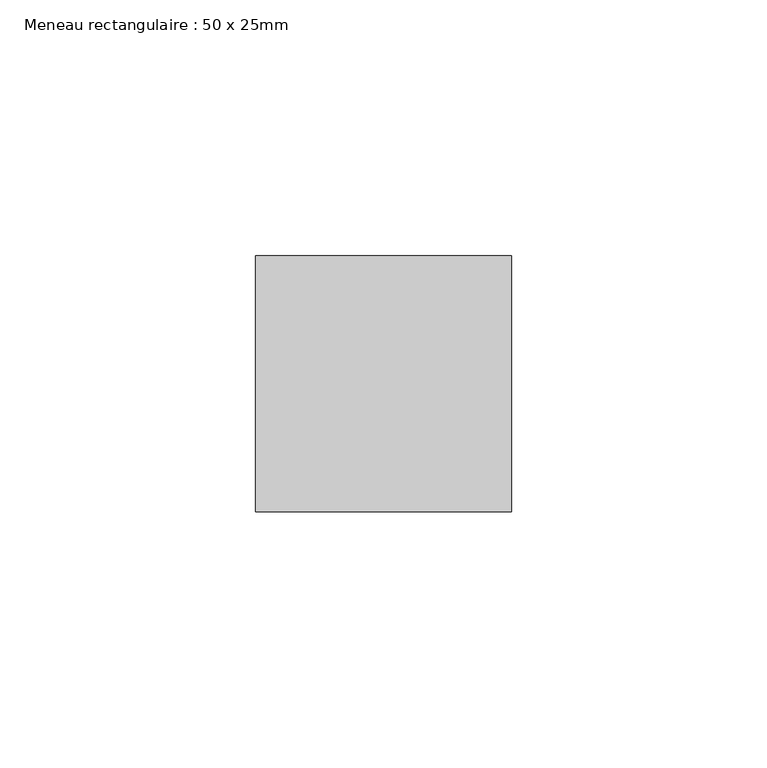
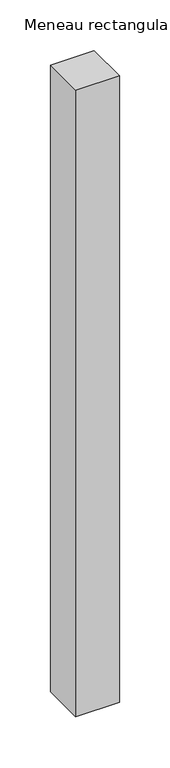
"""IFC4 building model written with IfcOpenShell, lengths in millimetres: member geometry, Meneau rectangulaire : 50 x 25mm."""

from ifc_helpers import new_model, si_unit, frame, origin, place, context, project, spatial, polyline, outline, extrude, source, transform, mapped, element, save


def meneau_rectangulaire_50_x_25mm_b23c0b19(model_context):
    return source(origin(), model_context, "Body", "SweptSolid", [
        extrude(outline(polyline([(25.0, 0.0), (25.0, -50.0), (-25.0, -50.0), (-25.0, 0.0), (25.0, 0.0)])), frame((0.0, 0.0, -758.0861048), z_axis=(0.0, 0.0, 1.0), x_axis=(1.0, 0.0, 0.0)), (0.0, 0.0, 1.0), 758.0861048),
    ])


if __name__ == "__main__":
    model = new_model("IFC4")
    model_context = context("Model", 3, world=origin())
    ifc_project = project(units=[si_unit("LENGTHUNIT", "METRE", prefix="MILLI")], contexts=[model_context])
    site = spatial("IfcSite", under=ifc_project)
    building = spatial("IfcBuilding", under=site)
    placement = place(None, origin())
    meneau_rectangulaire_50_x_25mm_shape = meneau_rectangulaire_50_x_25mm_b23c0b19(model_context)
    element("IfcMember", 1, ObjectType="Meneau rectangulaire : 50 x 25mm", at=placement, inside=building, context=model_context, shape_type="MappedRepresentation", body=[
        mapped(meneau_rectangulaire_50_x_25mm_shape, transform((0.0, 0.0, 0.0), x_axis=(1.0, 0.0, 0.0), y_axis=(0.0, 1.0, 0.0), z_axis=(0.0, 0.0, 1.0))),
    ])
    save(model, "model.ifc")
